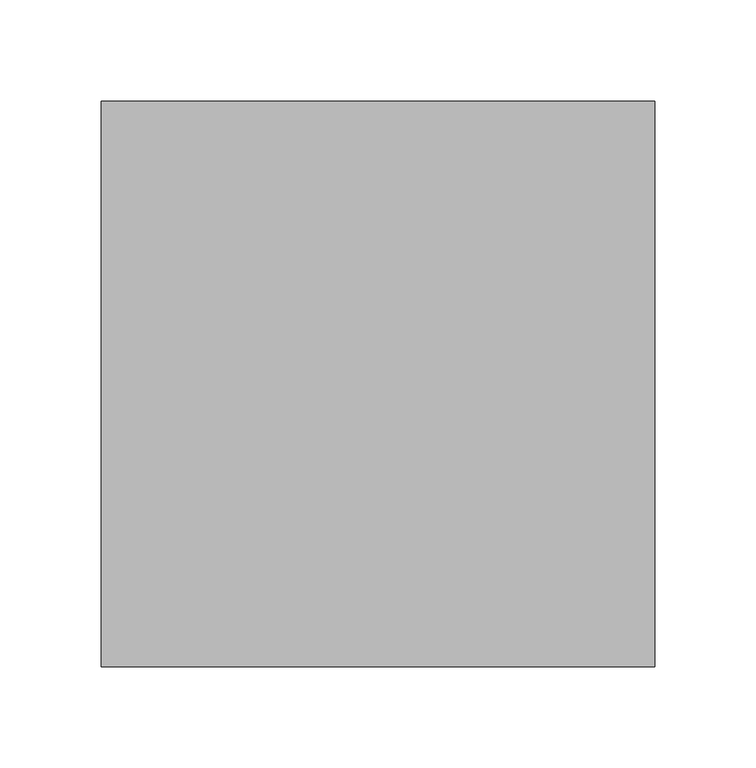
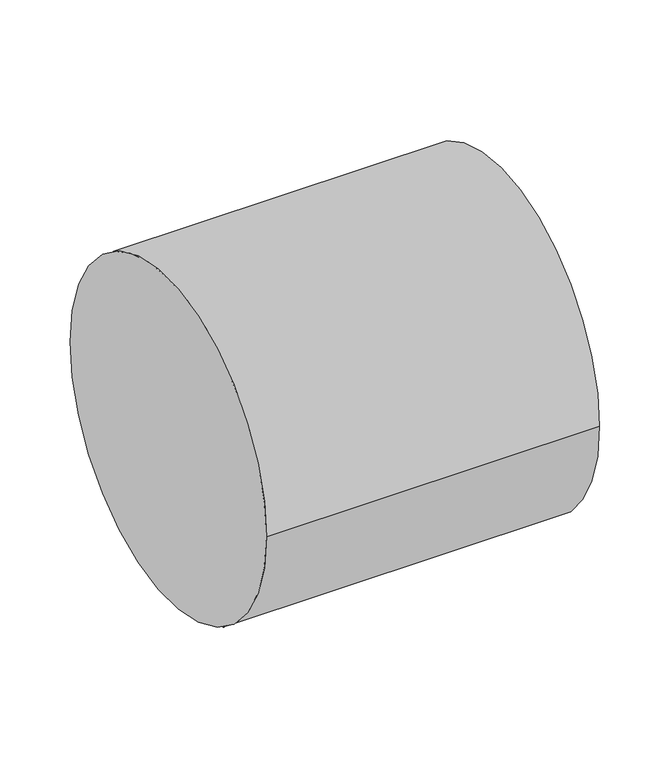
"""IFC4 building model written with IfcOpenShell, lengths in millimetres: pipe fitting geometry, 01051005 : Manchons égaux."""

from ifc_helpers import new_model, si_unit, point, frame, origin, origin_2d, place, context, project, spatial, circle_curve, trimmed, segment, composite_curve, outline, extrude, source, transform, mapped, element, save


def pipe_fitting_99ef52f6(model_context):
    return source(origin(), model_context, "Body", "SweptSolid", [
        extrude(outline(composite_curve([segment(trimmed(circle_curve(origin_2d(), 140.0), [point((-140.0, 0.0))], [point((140.0, 0.0))], False, "CARTESIAN"), True, "CONTINUOUS"), segment(trimmed(circle_curve(origin_2d(), 140.0), [point((140.0, 0.0))], [point((-140.0, 0.0))], False, "CARTESIAN"), True, "CONTINUOUS")], self_intersect=False)), frame((-137.0, 0.0, 0.0), z_axis=(1.0, 0.0, 0.0), x_axis=(0.0, 1.0, 0.0)), (0.0, 0.0, 1.0), 274.0),
    ])


if __name__ == "__main__":
    model = new_model("IFC4")
    model_context = context("Model", 3, world=origin())
    ifc_project = project(units=[si_unit("LENGTHUNIT", "METRE", prefix="MILLI")], contexts=[model_context])
    site = spatial("IfcSite", under=ifc_project)
    building = spatial("IfcBuilding", under=site)
    placement = place(None, origin())
    pipe_fitting_shape = pipe_fitting_99ef52f6(model_context)
    element("IfcPipeFitting", 1, ObjectType="01051005 : Manchons égaux", at=placement, inside=building, context=model_context, shape_type="MappedRepresentation", body=[
        mapped(pipe_fitting_shape, transform((0.0, 0.0, 0.0), x_axis=(1.0, 0.0, 0.0), y_axis=(0.0, 1.0, 0.0), z_axis=(0.0, 0.0, 1.0))),
    ])
    save(model, "model.ifc")
